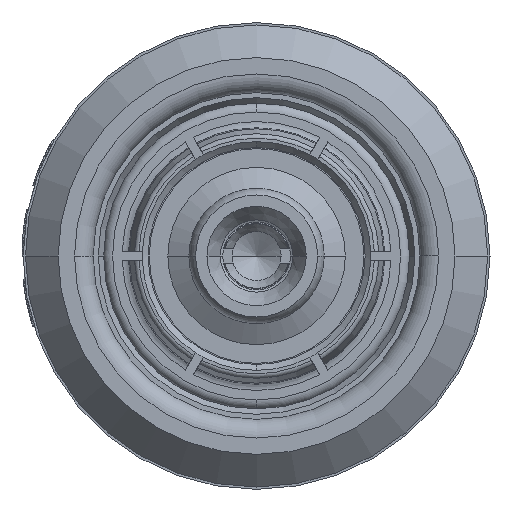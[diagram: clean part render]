
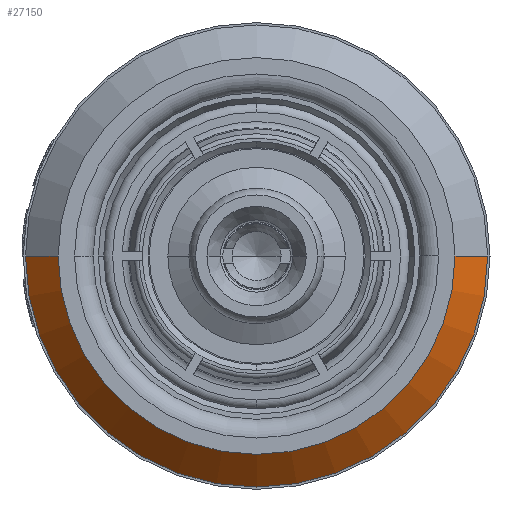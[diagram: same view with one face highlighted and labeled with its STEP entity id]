
A CAD part, left-side view. The second image highlights one B-rep face of the part: STEP entity #27150.
In plain terms, the highlighted conical face has half-angle 45 degrees and reference radius 4.6 mm.
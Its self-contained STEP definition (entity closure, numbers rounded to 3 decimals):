
#11045=CARTESIAN_POINT('',(0.7,0.,0.));
#11046=DIRECTION('',(1.,0.,0.));
#11047=DIRECTION('',(0.,-1.,0.));
#11048=AXIS2_PLACEMENT_3D('',#11045,#11046,#11047);
#11075=DIRECTION('',(-0.707,0.707,0.));
#11076=VECTOR('',#11075,0.99);
#11077=CARTESIAN_POINT('',(0.7,-4.95,
0.));
#11078=LINE('',#11077,#11076);
#11082=DIRECTION('',(-0.707,-0.707,0.));
#11083=VECTOR('',#11082,0.99);
#11084=CARTESIAN_POINT('',(0.7,4.95,
0.));
#11085=LINE('',#11084,#11083);
#11121=CARTESIAN_POINT('',(0.,0.,0.));
#11122=DIRECTION('',(1.,0.,0.));
#11123=DIRECTION('',(0.,-1.,0.));
#11124=AXIS2_PLACEMENT_3D('',#11121,#11122,#11123);
#18501=CARTESIAN_POINT('',(0.7,-4.95,0.));
#18502=CARTESIAN_POINT('',(0.7,4.95,0.));
#18503=VERTEX_POINT('',#18501);
#18504=VERTEX_POINT('',#18502);
#18505=CARTESIAN_POINT('',(0.,-4.25,0.));
#18506=CARTESIAN_POINT('',(0.,4.25,0.));
#18507=VERTEX_POINT('',#18505);
#18508=VERTEX_POINT('',#18506);
#27136=CARTESIAN_POINT('',(0.35,0.,0.));
#27137=DIRECTION('',(1.,0.,0.));
#27138=DIRECTION('',(0.,0.,-1.));
#27139=AXIS2_PLACEMENT_3D('',#27136,#27137,#27138);
#27140=CONICAL_SURFACE('',#27139,4.6,45.);
#27141=ORIENTED_EDGE('',*,*,#27126,.T.);
#27143=ORIENTED_EDGE('',*,*,#27142,.T.);
#27145=ORIENTED_EDGE('',*,*,#27144,.F.);
#27147=ORIENTED_EDGE('',*,*,#27146,.F.);
#27148=EDGE_LOOP('',(#27141,#27143,#27145,#27147));
#27149=FACE_OUTER_BOUND('',#27148,.F.);
#27150=ADVANCED_FACE('',(#27149),#27140,.T.);
#11049=CIRCLE('',#11048,4.95);
#11125=CIRCLE('',#11124,4.25);
#27126=EDGE_CURVE('',#18503,#18504,#11049,.T.);
#27142=EDGE_CURVE('',#18504,#18508,#11085,.T.);
#27144=EDGE_CURVE('',#18507,#18508,#11125,.T.);
#27146=EDGE_CURVE('',#18503,#18507,#11078,.T.);
